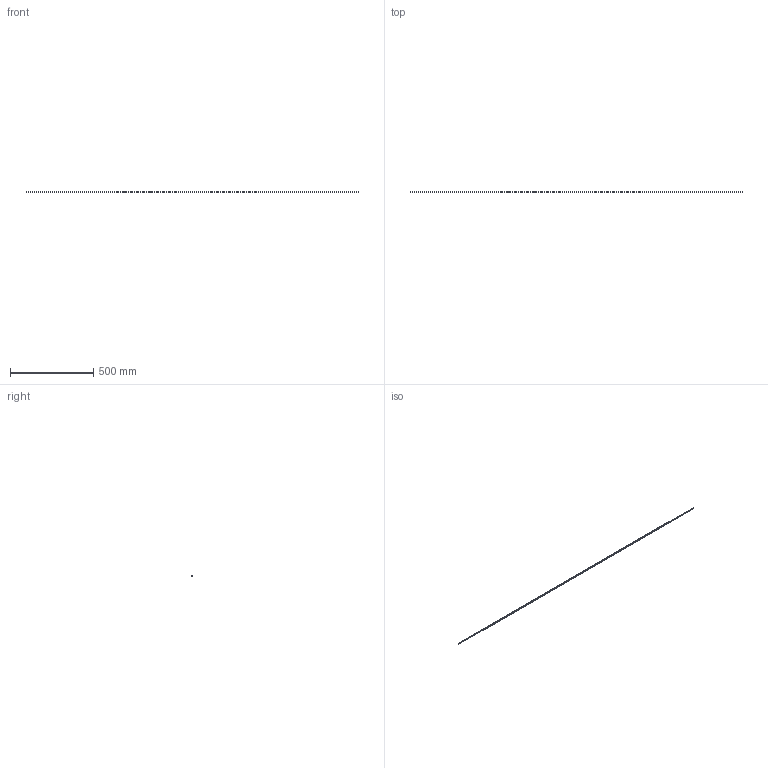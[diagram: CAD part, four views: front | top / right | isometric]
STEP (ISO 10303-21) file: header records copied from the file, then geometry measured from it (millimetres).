
FILE_DESCRIPTION (( 'STEP AP214' ), '1' );
FILE_NAME ('EBP-B5-5.STEP', '2016-01-28T06:59:09', ( '' ), ( '' ), 'SwSTEP 2.0', 'SolidWorks 2012', '' );
FILE_SCHEMA (( 'AUTOMOTIVE_DESIGN' ));
Length unit declared in the file: millimetre
Products named in the file (1): EBP-B5-5
Bounding box: 2000 x 5.2 x 5 mm (x, y, z)
Volume: 52000 mm3; surface area: 60852 mm2
Topology: 2 solids, 2 shells, 12 faces, 24 edges, 16 vertices
Faces by surface type: plane 12
Entity records: 351 total; most frequent: CARTESIAN_POINT 53, DIRECTION 50, ORIENTED_EDGE 48, EDGE_CURVE 24, VECTOR 24, LINE 24, VERTEX_POINT 16, AXIS2_PLACEMENT_3D 13
